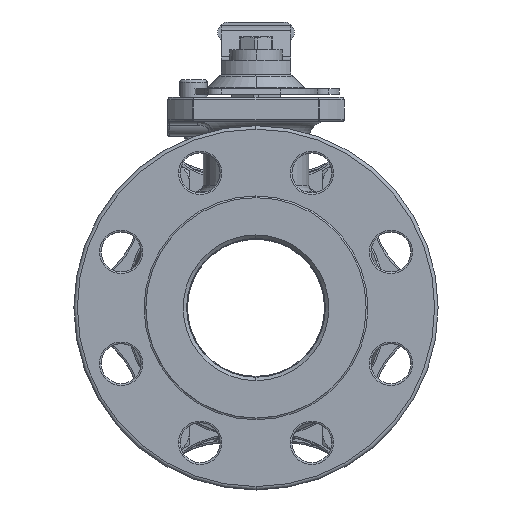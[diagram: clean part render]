
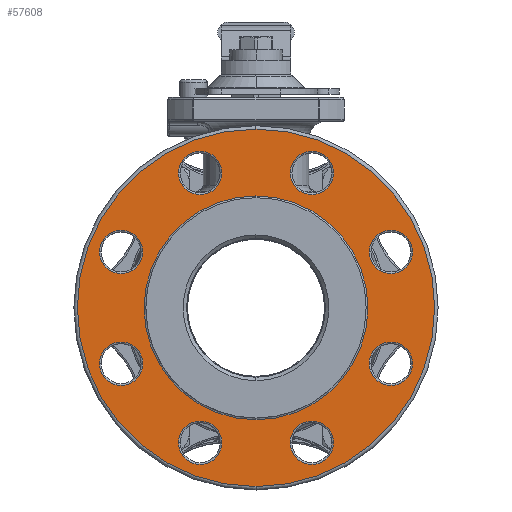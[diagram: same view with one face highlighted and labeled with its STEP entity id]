
A CAD part, left-side view. The second image highlights one B-rep face of the part: STEP entity #57608.
In plain terms, the highlighted planar face has unit normal (-1, 0, 0).
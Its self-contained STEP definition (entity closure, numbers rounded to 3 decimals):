
#3315=CARTESIAN_POINT('',(-125.4,0.,0.));
#3316=DIRECTION('',(-1.,0.,0.));
#3317=DIRECTION('',(0.,0.,1.));
#3318=AXIS2_PLACEMENT_3D('',#3315,#3316,#3317);
#3335=CARTESIAN_POINT('',(-125.4,0.,0.));
#3336=DIRECTION('',(1.,0.,0.));
#3337=DIRECTION('',(0.,0.,-1.));
#3338=AXIS2_PLACEMENT_3D('',#3335,#3336,#3337);
#3358=CARTESIAN_POINT('',(-125.4,0.,0.));
#3359=DIRECTION('',(1.,0.,0.));
#3360=DIRECTION('',(0.,0.,1.));
#3361=AXIS2_PLACEMENT_3D('',#3358,#3359,#3360);
#38359=CARTESIAN_POINT('',(-125.4,77.744,32.203));
#38360=DIRECTION('',(1.,0.,0.));
#38361=DIRECTION('',(0.,-1.,0.));
#38362=AXIS2_PLACEMENT_3D('',#38359,#38360,#38361);
#38374=CARTESIAN_POINT('',(-125.4,77.744,32.203));
#38375=DIRECTION('',(1.,0.,0.));
#38376=DIRECTION('',(0.,1.,0.));
#38377=AXIS2_PLACEMENT_3D('',#38374,#38375,#38376);
#38427=CARTESIAN_POINT('',(-125.4,32.203,77.744));
#38428=DIRECTION('',(1.,0.,0.));
#38429=DIRECTION('',(0.,1.,0.));
#38430=AXIS2_PLACEMENT_3D('',#38427,#38428,#38429);
#38442=CARTESIAN_POINT('',(-125.4,32.203,77.744));
#38443=DIRECTION('',(1.,0.,0.));
#38444=DIRECTION('',(0.,-1.,0.));
#38445=AXIS2_PLACEMENT_3D('',#38442,#38443,#38444);
#38495=CARTESIAN_POINT('',(-125.4,-32.203,77.744));
#38496=DIRECTION('',(1.,0.,0.));
#38497=DIRECTION('',(0.,1.,0.));
#38498=AXIS2_PLACEMENT_3D('',#38495,#38496,#38497);
#38510=CARTESIAN_POINT('',(-125.4,-32.203,77.744));
#38511=DIRECTION('',(1.,0.,0.));
#38512=DIRECTION('',(0.,-1.,0.));
#38513=AXIS2_PLACEMENT_3D('',#38510,#38511,#38512);
#38563=CARTESIAN_POINT('',(-125.4,-77.744,32.203));
#38564=DIRECTION('',(1.,0.,0.));
#38565=DIRECTION('',(0.,1.,0.));
#38566=AXIS2_PLACEMENT_3D('',#38563,#38564,#38565);
#38578=CARTESIAN_POINT('',(-125.4,-77.744,32.203));
#38579=DIRECTION('',(1.,0.,0.));
#38580=DIRECTION('',(0.,-1.,0.));
#38581=AXIS2_PLACEMENT_3D('',#38578,#38579,#38580);
#38631=CARTESIAN_POINT('',(-125.4,-77.744,-32.203));
#38632=DIRECTION('',(1.,0.,0.));
#38633=DIRECTION('',(0.,-1.,0.));
#38634=AXIS2_PLACEMENT_3D('',#38631,#38632,#38633);
#38646=CARTESIAN_POINT('',(-125.4,-77.744,-32.203));
#38647=DIRECTION('',(1.,0.,0.));
#38648=DIRECTION('',(0.,1.,0.));
#38649=AXIS2_PLACEMENT_3D('',#38646,#38647,#38648);
#38703=CARTESIAN_POINT('',(-125.4,-32.203,-77.744));
#38704=DIRECTION('',(1.,0.,0.));
#38705=DIRECTION('',(0.,-1.,0.));
#38706=AXIS2_PLACEMENT_3D('',#38703,#38704,#38705);
#38718=CARTESIAN_POINT('',(-125.4,-32.203,-77.744));
#38719=DIRECTION('',(1.,0.,0.));
#38720=DIRECTION('',(0.,1.,0.));
#38721=AXIS2_PLACEMENT_3D('',#38718,#38719,#38720);
#38771=CARTESIAN_POINT('',(-125.4,32.203,-77.744));
#38772=DIRECTION('',(1.,0.,0.));
#38773=DIRECTION('',(0.,1.,0.));
#38774=AXIS2_PLACEMENT_3D('',#38771,#38772,#38773);
#38786=CARTESIAN_POINT('',(-125.4,32.203,-77.744));
#38787=DIRECTION('',(1.,0.,0.));
#38788=DIRECTION('',(0.,-1.,0.));
#38789=AXIS2_PLACEMENT_3D('',#38786,#38787,#38788);
#38835=CARTESIAN_POINT('',(-125.4,77.744,-32.203));
#38836=DIRECTION('',(1.,0.,0.));
#38837=DIRECTION('',(0.,-1.,0.));
#38838=AXIS2_PLACEMENT_3D('',#38835,#38836,#38837);
#38850=CARTESIAN_POINT('',(-125.4,77.744,-32.203));
#38851=DIRECTION('',(1.,0.,0.));
#38852=DIRECTION('',(0.,1.,0.));
#38853=AXIS2_PLACEMENT_3D('',#38850,#38851,#38852);
#38869=CARTESIAN_POINT('',(-125.4,0.,0.));
#38870=DIRECTION('',(-1.,0.,0.));
#38871=DIRECTION('',(0.,0.,-1.));
#38872=AXIS2_PLACEMENT_3D('',#38869,#38870,#38871);
#44420=CARTESIAN_POINT('',(-125.4,0.,-103.));
#44421=CARTESIAN_POINT('',(-125.4,0.,103.));
#44422=VERTEX_POINT('',#44420);
#44423=VERTEX_POINT('',#44421);
#44432=CARTESIAN_POINT('',(-125.4,90.244,32.203));
#44433=CARTESIAN_POINT('',(-125.4,65.244,32.203));
#44434=VERTEX_POINT('',#44432);
#44435=VERTEX_POINT('',#44433);
#44448=CARTESIAN_POINT('',(-125.4,19.703,77.744));
#44449=CARTESIAN_POINT('',(-125.4,44.703,77.744));
#44450=VERTEX_POINT('',#44448);
#44451=VERTEX_POINT('',#44449);
#44464=CARTESIAN_POINT('',(-125.4,-44.703,77.744));
#44465=CARTESIAN_POINT('',(-125.4,-19.703,77.744));
#44466=VERTEX_POINT('',#44464);
#44467=VERTEX_POINT('',#44465);
#44480=CARTESIAN_POINT('',(-125.4,-90.244,32.203));
#44481=CARTESIAN_POINT('',(-125.4,-65.244,32.203));
#44482=VERTEX_POINT('',#44480);
#44483=VERTEX_POINT('',#44481);
#44496=CARTESIAN_POINT('',(-125.4,-90.244,-32.203));
#44497=CARTESIAN_POINT('',(-125.4,-65.244,-32.203));
#44498=VERTEX_POINT('',#44496);
#44499=VERTEX_POINT('',#44497);
#44520=CARTESIAN_POINT('',(-125.4,-19.703,-77.744));
#44521=CARTESIAN_POINT('',(-125.4,-44.703,-77.744));
#44522=VERTEX_POINT('',#44520);
#44523=VERTEX_POINT('',#44521);
#44536=CARTESIAN_POINT('',(-125.4,44.703,-77.744));
#44537=CARTESIAN_POINT('',(-125.4,19.703,-77.744));
#44538=VERTEX_POINT('',#44536);
#44539=VERTEX_POINT('',#44537);
#44544=CARTESIAN_POINT('',(-125.4,90.244,-32.203));
#44545=CARTESIAN_POINT('',(-125.4,65.244,-32.203));
#44546=VERTEX_POINT('',#44544);
#44547=VERTEX_POINT('',#44545);
#45044=CARTESIAN_POINT('',(-125.4,0.,-64.5));
#45045=CARTESIAN_POINT('',(-125.4,0.,64.5));
#45046=VERTEX_POINT('',#45044);
#45047=VERTEX_POINT('',#45045);
#57544=CARTESIAN_POINT('',(-125.4,0.,0.));
#57545=DIRECTION('',(-1.,0.,0.));
#57546=DIRECTION('',(0.,0.,1.));
#57547=AXIS2_PLACEMENT_3D('',#57544,#57545,#57546);
#57548=PLANE('',#57547);
#57550=ORIENTED_EDGE('',*,*,#57549,.T.);
#57552=ORIENTED_EDGE('',*,*,#57551,.T.);
#57553=EDGE_LOOP('',(#57550,#57552));
#57554=FACE_OUTER_BOUND('',#57553,.F.);
#57556=ORIENTED_EDGE('',*,*,#57555,.T.);
#57557=ORIENTED_EDGE('',*,*,#57534,.T.);
#57558=EDGE_LOOP('',(#57556,#57557));
#57559=FACE_BOUND('',#57558,.F.);
#57561=ORIENTED_EDGE('',*,*,#57560,.F.);
#57563=ORIENTED_EDGE('',*,*,#57562,.F.);
#57564=EDGE_LOOP('',(#57561,#57563));
#57565=FACE_BOUND('',#57564,.F.);
#57567=ORIENTED_EDGE('',*,*,#57566,.F.);
#57569=ORIENTED_EDGE('',*,*,#57568,.F.);
#57570=EDGE_LOOP('',(#57567,#57569));
#57571=FACE_BOUND('',#57570,.F.);
#57573=ORIENTED_EDGE('',*,*,#57572,.F.);
#57575=ORIENTED_EDGE('',*,*,#57574,.F.);
#57576=EDGE_LOOP('',(#57573,#57575));
#57577=FACE_BOUND('',#57576,.F.);
#57579=ORIENTED_EDGE('',*,*,#57578,.F.);
#57581=ORIENTED_EDGE('',*,*,#57580,.F.);
#57582=EDGE_LOOP('',(#57579,#57581));
#57583=FACE_BOUND('',#57582,.F.);
#57585=ORIENTED_EDGE('',*,*,#57584,.F.);
#57587=ORIENTED_EDGE('',*,*,#57586,.F.);
#57588=EDGE_LOOP('',(#57585,#57587));
#57589=FACE_BOUND('',#57588,.F.);
#57591=ORIENTED_EDGE('',*,*,#57590,.F.);
#57593=ORIENTED_EDGE('',*,*,#57592,.F.);
#57594=EDGE_LOOP('',(#57591,#57593));
#57595=FACE_BOUND('',#57594,.F.);
#57597=ORIENTED_EDGE('',*,*,#57596,.F.);
#57599=ORIENTED_EDGE('',*,*,#57598,.F.);
#57600=EDGE_LOOP('',(#57597,#57599));
#57601=FACE_BOUND('',#57600,.F.);
#57603=ORIENTED_EDGE('',*,*,#57602,.F.);
#57605=ORIENTED_EDGE('',*,*,#57604,.F.);
#57606=EDGE_LOOP('',(#57603,#57605));
#57607=FACE_BOUND('',#57606,.F.);
#57608=ADVANCED_FACE('',(#57554,#57559,#57565,#57571,#57577,#57583,#57589,
#57595,#57601,#57607),#57548,.T.);
#3319=CIRCLE('',#3318,64.5);
#3339=CIRCLE('',#3338,103.);
#3362=CIRCLE('',#3361,103.);
#38363=CIRCLE('',#38362,12.5);
#38378=CIRCLE('',#38377,12.5);
#38431=CIRCLE('',#38430,12.5);
#38446=CIRCLE('',#38445,12.5);
#38499=CIRCLE('',#38498,12.5);
#38514=CIRCLE('',#38513,12.5);
#38567=CIRCLE('',#38566,12.5);
#38582=CIRCLE('',#38581,12.5);
#38635=CIRCLE('',#38634,12.5);
#38650=CIRCLE('',#38649,12.5);
#38707=CIRCLE('',#38706,12.5);
#38722=CIRCLE('',#38721,12.5);
#38775=CIRCLE('',#38774,12.5);
#38790=CIRCLE('',#38789,12.5);
#38839=CIRCLE('',#38838,12.5);
#38854=CIRCLE('',#38853,12.5);
#38873=CIRCLE('',#38872,64.5);
#57534=EDGE_CURVE('',#45047,#45046,#3319,.T.);
#57549=EDGE_CURVE('',#44422,#44423,#3339,.T.);
#57551=EDGE_CURVE('',#44423,#44422,#3362,.T.);
#57555=EDGE_CURVE('',#45046,#45047,#38873,.T.);
#57560=EDGE_CURVE('',#44434,#44435,#38378,.T.);
#57562=EDGE_CURVE('',#44435,#44434,#38363,.T.);
#57566=EDGE_CURVE('',#44450,#44451,#38446,.T.);
#57568=EDGE_CURVE('',#44451,#44450,#38431,.T.);
#57572=EDGE_CURVE('',#44466,#44467,#38514,.T.);
#57574=EDGE_CURVE('',#44467,#44466,#38499,.T.);
#57578=EDGE_CURVE('',#44482,#44483,#38582,.T.);
#57580=EDGE_CURVE('',#44483,#44482,#38567,.T.);
#57584=EDGE_CURVE('',#44498,#44499,#38635,.T.);
#57586=EDGE_CURVE('',#44499,#44498,#38650,.T.);
#57590=EDGE_CURVE('',#44522,#44523,#38722,.T.);
#57592=EDGE_CURVE('',#44523,#44522,#38707,.T.);
#57596=EDGE_CURVE('',#44538,#44539,#38775,.T.);
#57598=EDGE_CURVE('',#44539,#44538,#38790,.T.);
#57602=EDGE_CURVE('',#44546,#44547,#38854,.T.);
#57604=EDGE_CURVE('',#44547,#44546,#38839,.T.);
